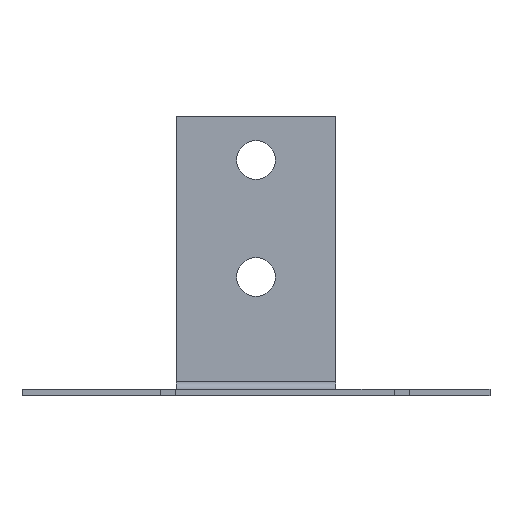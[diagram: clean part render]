
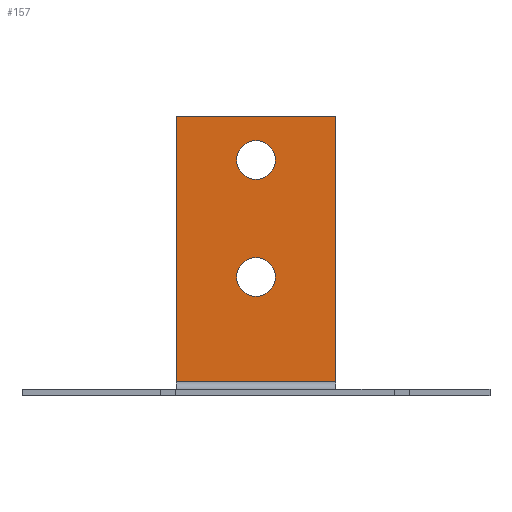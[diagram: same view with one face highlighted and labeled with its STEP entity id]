
A CAD part, top view. The second image highlights one B-rep face of the part: STEP entity #157.
In plain terms, the highlighted planar face has unit normal (0, 0, 1).
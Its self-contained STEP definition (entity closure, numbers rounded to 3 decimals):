
#157 = ADVANCED_FACE( '', ( #312, #313, #314 ), #315, .F. );
#312 = FACE_BOUND( '', #464, .T. );
#313 = FACE_OUTER_BOUND( '', #465, .T. );
#314 = FACE_BOUND( '', #466, .T. );
#315 = PLANE( '', #467 );
#464 = EDGE_LOOP( '', ( #804 ) );
#465 = EDGE_LOOP( '', ( #805, #806, #807, #808 ) );
#466 = EDGE_LOOP( '', ( #809 ) );
#467 = AXIS2_PLACEMENT_3D( '', #810, #811, #812 );
#804 = ORIENTED_EDGE( '', *, *, #1070, .F. );
#805 = ORIENTED_EDGE( '', *, *, #1004, .T. );
#806 = ORIENTED_EDGE( '', *, *, #1071, .F. );
#807 = ORIENTED_EDGE( '', *, *, #1022, .F. );
#808 = ORIENTED_EDGE( '', *, *, #1072, .T. );
#809 = ORIENTED_EDGE( '', *, *, #1050, .F. );
#810 = CARTESIAN_POINT( '', ( 10.25, 20.6, 0. ) );
#811 = DIRECTION( '', ( 0., 0., -1. ) );
#812 = DIRECTION( '', ( 0., 1., 0. ) );
#1004 = EDGE_CURVE( '', #1230, #1228, #1231, .T. );
#1022 = EDGE_CURVE( '', #1252, #1254, #1255, .T. );
#1050 = EDGE_CURVE( '', #1292, #1292, #1293, .F. );
#1070 = EDGE_CURVE( '', #1317, #1317, #1318, .F. );
#1071 = EDGE_CURVE( '', #1254, #1228, #1319, .T. );
#1072 = EDGE_CURVE( '', #1252, #1230, #1320, .T. );
#1228 = VERTEX_POINT( '', #1543 );
#1230 = VERTEX_POINT( '', #1545 );
#1231 = LINE( '', #1546, #1547 );
#1252 = VERTEX_POINT( '', #1577 );
#1254 = VERTEX_POINT( '', #1580 );
#1255 = LINE( '', #1581, #1582 );
#1292 = VERTEX_POINT( '', #1636 );
#1293 = CIRCLE( '', #1637, 2.5 );
#1317 = VERTEX_POINT( '', #1672 );
#1318 = CIRCLE( '', #1673, 2.5 );
#1319 = LINE( '', #1674, #1675 );
#1320 = LINE( '', #1676, #1677 );
#1543 = CARTESIAN_POINT( '', ( -10.25, -13.4, 0. ) );
#1545 = CARTESIAN_POINT( '', ( -10.25, 20.6, 0. ) );
#1546 = CARTESIAN_POINT( '', ( -10.25, 20.6, 0. ) );
#1547 = VECTOR( '', #1774, 1000. );
#1577 = CARTESIAN_POINT( '', ( 10.25, 20.6, 0. ) );
#1580 = CARTESIAN_POINT( '', ( 10.25, -13.4, 0. ) );
#1581 = CARTESIAN_POINT( '', ( 10.25, 20.6, 0. ) );
#1582 = VECTOR( '', #1791, 1000. );
#1636 = CARTESIAN_POINT( '', ( 0., 17.5, 0. ) );
#1637 = AXIS2_PLACEMENT_3D( '', #1812, #1813, #1814 );
#1672 = CARTESIAN_POINT( '', ( 0., 2.5, 0. ) );
#1673 = AXIS2_PLACEMENT_3D( '', #1826, #1827, #1828 );
#1674 = CARTESIAN_POINT( '', ( 10.25, -13.4, 0. ) );
#1675 = VECTOR( '', #1829, 1000. );
#1676 = CARTESIAN_POINT( '', ( 10.25, 20.6, 0. ) );
#1677 = VECTOR( '', #1830, 1000. );
#1774 = DIRECTION( '', ( 0., -1., 0. ) );
#1791 = DIRECTION( '', ( 0., -1., 0. ) );
#1812 = CARTESIAN_POINT( '', ( 0., 15., 0. ) );
#1813 = DIRECTION( '', ( 0., 0., -1. ) );
#1814 = DIRECTION( '', ( 0., 1., 0. ) );
#1826 = CARTESIAN_POINT( '', ( 0., 0., 0. ) );
#1827 = DIRECTION( '', ( 0., 0., -1. ) );
#1828 = DIRECTION( '', ( 0., 1., 0. ) );
#1829 = DIRECTION( '', ( -1., 0., 0. ) );
#1830 = DIRECTION( '', ( -1., 0., 0. ) );
